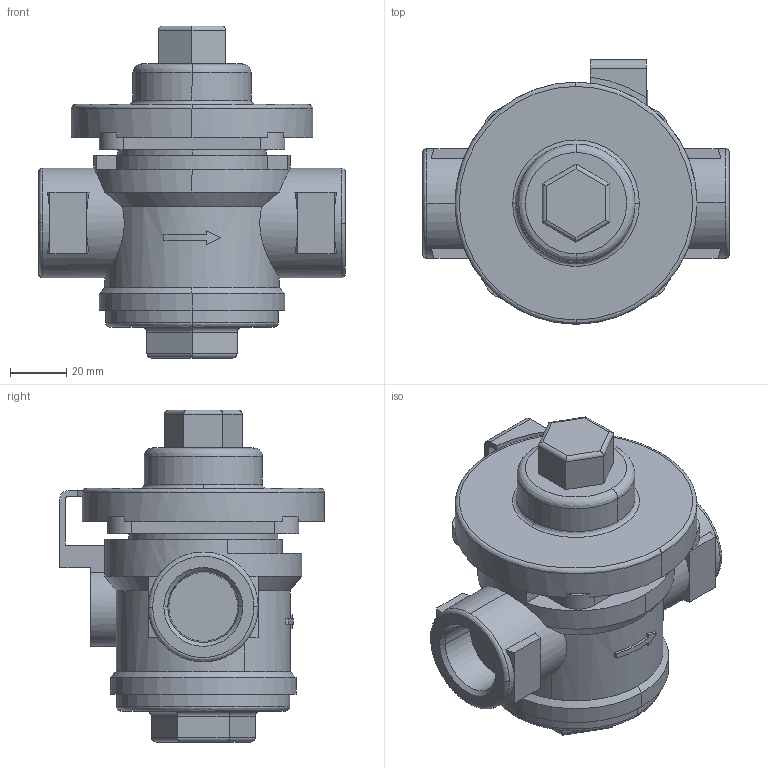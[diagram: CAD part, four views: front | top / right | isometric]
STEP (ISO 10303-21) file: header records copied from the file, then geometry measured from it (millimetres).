
FILE_DESCRIPTION( (''), '2;1');
FILE_NAME ('PC1027.12188.TS-7 20A_2182.stp','2025-07-31T16:25:16',(''),(''),'spGate 20.6.3 (****-****-****-****)','','');
FILE_SCHEMA (('AUTOMOTIVE_DESIGN'));
Length unit declared in the file: millimetre
Products named in the file (2): Assembly; TS-7 20A
Assembly tree (1 placements, depth 2):
  Assembly
    TS-7 20A
Bounding box: 109 x 94 x 118 mm (x, y, z)
Volume: 382561.6 mm3; surface area: 46540.4 mm2
Topology: 1 solids, 1 shells, 154 faces, 391 edges, 252 vertices
Faces by surface type: plane 83, cylinder 46, bspline 25
Entity records: 8342 total; most frequent: CARTESIAN_POINT 1700, ORIENTED_EDGE 782, DIRECTION 666, COLOUR_RGB 546, PRESENTATION_STYLE_ASSIGNMENT 546, STYLED_ITEM 546, EDGE_CURVE 391, DRAUGHTING_PRE_DEFINED_CURVE_FONT 391
